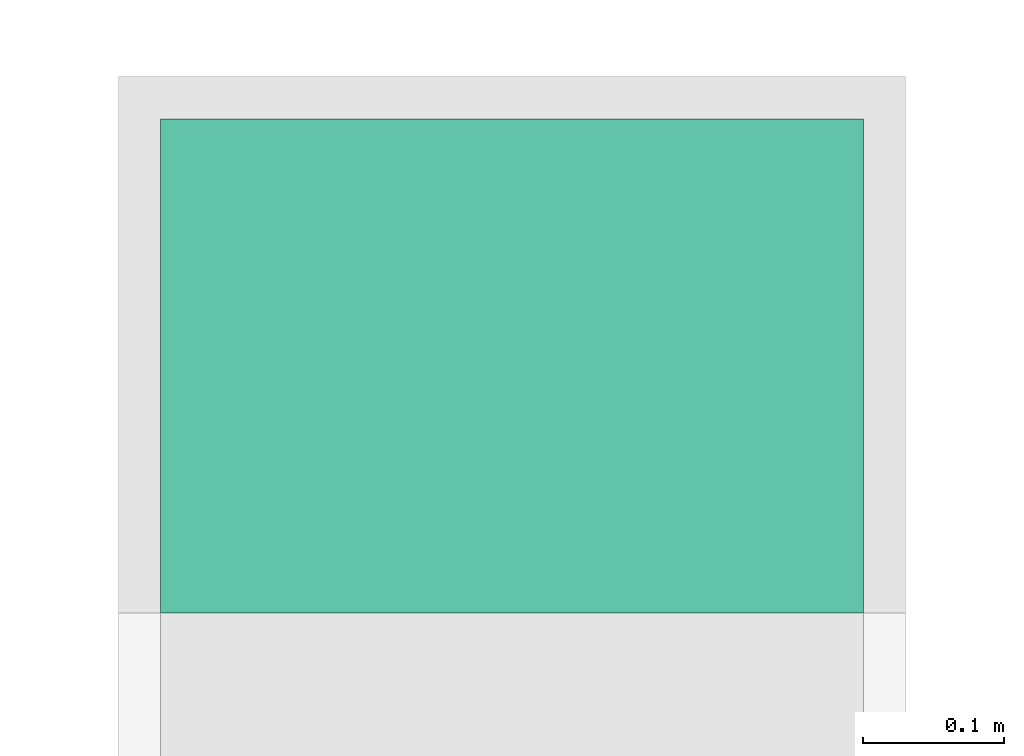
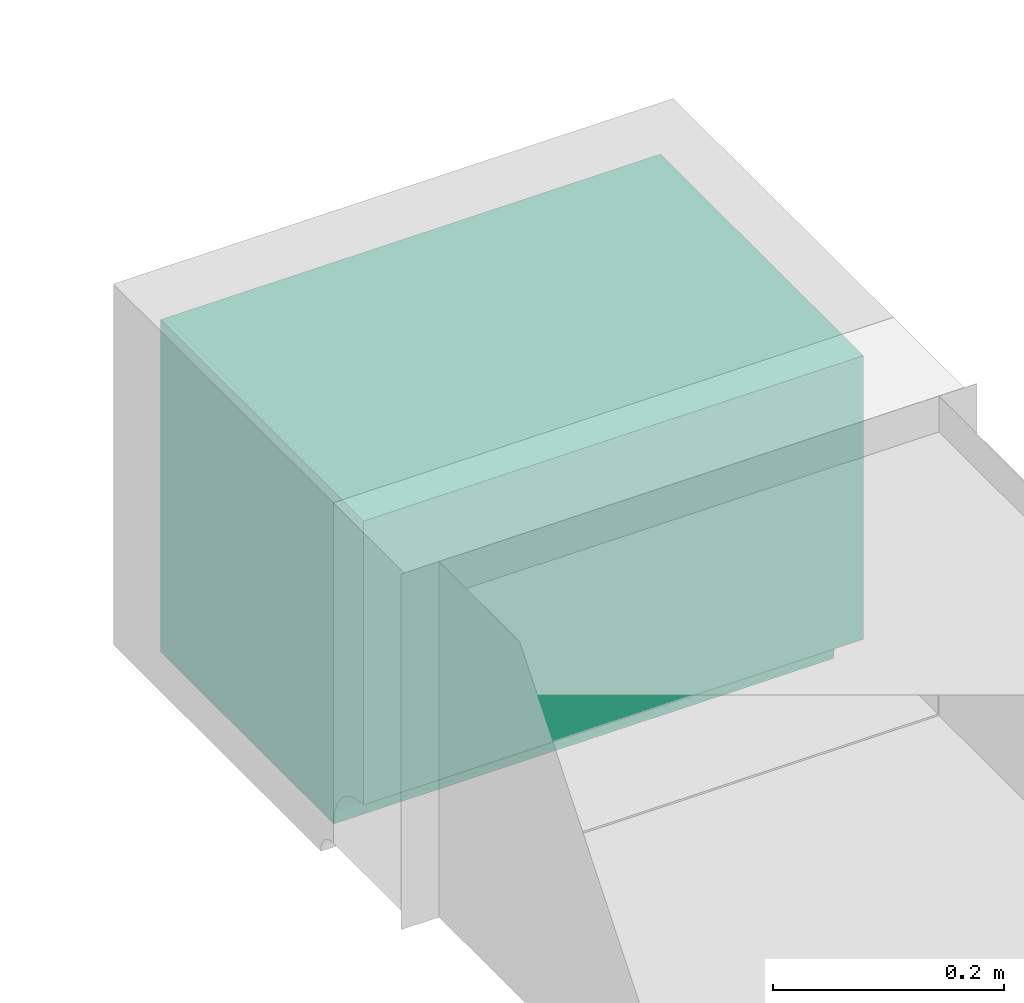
# One storey, part 14 of 14: 1 flow fitting.
"""IFC2X3 building model written with IfcOpenShell, lengths in millimetres."""

from ifc_helpers import new_model, entity, si_unit, converted_unit, derived_unit, direction, frame, origin_with_axes, place, context, subcontext, project, spatial, open_shell, surface_model, source, transform, mapped, type_object, element, save


model = new_model("IFC2X3")

# Units and contexts
model_context = context("Model", 3, precision=0.01, world=frame((0.0, 4.29681676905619e-09, 0.0)), true_north=direction((4.01073788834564e-13, 1.0)))
plan_context = context("Plan", 3, precision=0.01, world=frame((0.0, 4.29681676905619e-09, 0.0)), true_north=direction((4.01073788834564e-13, 1.0)))
body_context = subcontext(model_context, "Body", "Model", "MODEL_VIEW")
ifc_project = project(units=[converted_unit("PLANEANGLEUNIT", "DEGREE", entity("IfcPositiveLengthMeasure", 0.0174532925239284), si_unit("PLANEANGLEUNIT", "RADIAN"), dimensions=[0, 0, 0, 0, 0, 0, 0]), si_unit("AREAUNIT", "SQUARE_METRE"), si_unit("LENGTHUNIT", "METRE", prefix="MILLI"), si_unit("MASSUNIT", "GRAM", prefix="KILO"), si_unit("POWERUNIT", "WATT"), si_unit("PRESSUREUNIT", "PASCAL", prefix="KILO"), si_unit("FORCEUNIT", "NEWTON", prefix="KILO"), si_unit("ELECTRICVOLTAGEUNIT", "VOLT"), si_unit("ELECTRICCURRENTUNIT", "AMPERE"), si_unit("THERMODYNAMICTEMPERATUREUNIT", "DEGREE_CELSIUS"), si_unit("TIMEUNIT", "SECOND"), si_unit("VOLUMEUNIT", "CUBIC_METRE"), derived_unit("LINEARVELOCITYUNIT", [(si_unit("LENGTHUNIT", "METRE"), 1), (si_unit("TIMEUNIT", "SECOND"), -1)]), derived_unit("VOLUMETRICFLOWRATEUNIT", [(si_unit("VOLUMEUNIT", "CUBIC_METRE"), 1), (si_unit("TIMEUNIT", "SECOND"), -1)]), derived_unit("THERMALTRANSMITTANCEUNIT", [(si_unit("POWERUNIT", "WATT"), 1), (si_unit("THERMODYNAMICTEMPERATUREUNIT", "KELVIN"), -1), (si_unit("AREAUNIT", "SQUARE_METRE"), -1)]), derived_unit("SOUNDPRESSUREUNIT", [(si_unit("PRESSUREUNIT", "PASCAL"), 1)])], contexts=[model_context, plan_context])

# Site, building, storey
site_placement = place(None, frame((0.0, -4.29681676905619e-09, 0.0), z_axis=(0.0, 0.0, 1.0), x_axis=(1.0, 0.0, 0.0)))
site = spatial("IfcSite", under=ifc_project, at=site_placement, CompositionType="ELEMENT")
building_placement = place(site_placement, frame((0.0, 4.29681676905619e-09, 0.0), z_axis=(0.0, 0.0, 1.0), x_axis=(1.0, 0.0, 0.0)))
building = spatial("IfcBuilding", under=site, at=building_placement, Name="mc-building", CompositionType="ELEMENT")
storey_placement = place(building_placement, frame((0.0, 0.0, 205200.0), z_axis=(0.0, 0.0, 1.0), x_axis=(1.0, 0.0, 0.0)))
storey = spatial("IfcBuildingStorey", under=building, at=storey_placement, Name="Nivå D + 1,2 m", CompositionType="ELEMENT", Elevation=205200.0)

# Flow fitting
duct_fitting_type = type_object("IfcDuctFittingType", Name="Lindab LBR", PredefinedType="BEND")
shared_shape = source(origin_with_axes(), body_context, "Body", "SurfaceModel", [
    surface_model("IfcShellBasedSurfaceModel", [(-151.70371, 187.05904, 250.0), (-156.69874, 175.0, 250.0), (150.0, 200.0, 250.0), (-150.0, 201.5, 250.0), (150.0, 201.5, 250.0), (-150.0, 200.0, 250.0), (-164.64466, 164.64466, 250.0), (-201.5, 150.0, 250.0), (-201.5, -150.0, 250.0), (-200.0, 150.0, 250.0), (-187.05904, 151.70371, 250.0), (-175.0, 156.69874, 250.0), (150.0, -150.0, 250.0), (-201.5, -150.0, -250.0), (-201.5, 150.0, -250.0), (-200.0, 150.0, -250.0), (-187.05904, 151.70371, -250.0), (150.0, -150.0, -250.0), (-164.64466, 164.64466, -250.0), (-175.0, 156.69874, -250.0), (-156.69874, 175.0, -250.0), (-151.70371, 187.05904, -250.0), (150.0, 200.0, -250.0), (-150.0, 200.0, -250.0), (-150.0, 201.5, -250.0), (150.0, 201.5, -250.0)], [open_shell([[[0, 1, 2]], [[3, 2, 4]], [[2, 3, 5]], [[2, 5, 0]], [[1, 6, 2]], [[7, 8, 9]], [[9, 8, 10]], [[11, 8, 6]], [[8, 11, 10]], [[8, 12, 6]], [[6, 12, 2]], [[13, 14, 15]], [[13, 15, 16]], [[17, 13, 18]], [[19, 13, 16]], [[18, 13, 19]], [[20, 21, 22]], [[18, 20, 22]], [[23, 22, 21]], [[22, 23, 24]], [[24, 25, 22]], [[18, 22, 17]], [[20, 1, 0]], [[23, 0, 5]], [[21, 0, 23]], [[20, 0, 21]], [[20, 18, 1]], [[18, 6, 1]], [[10, 11, 16]], [[9, 10, 15]], [[18, 19, 6]], [[19, 11, 6]], [[16, 11, 19]], [[16, 15, 10]], [[7, 9, 14]], [[15, 14, 9]], [[8, 7, 13]], [[14, 13, 7]], [[12, 8, 13]], [[13, 17, 12]], [[2, 12, 22]], [[17, 22, 12]], [[4, 2, 25]], [[22, 25, 2]], [[3, 4, 25]], [[25, 24, 3]], [[5, 3, 23]], [[24, 23, 3]]])]),
])
flow_fitting_placement = place(storey_placement, frame((347143.0, 465211.0, 4092.5), z_axis=(-1.0, 0.0, 0.0), x_axis=(0.0, 1.0, 0.0)))
element("IfcFlowFitting", 1, at=flow_fitting_placement, inside=storey, type_object=duct_fitting_type, Name="Lindab LBR", context=body_context, shape_type="MappedRepresentation", body=[
    mapped(shared_shape, transform((0.0, 0.0, 0.0), scale=1.0)),
])

save(model, "model.ifc")
